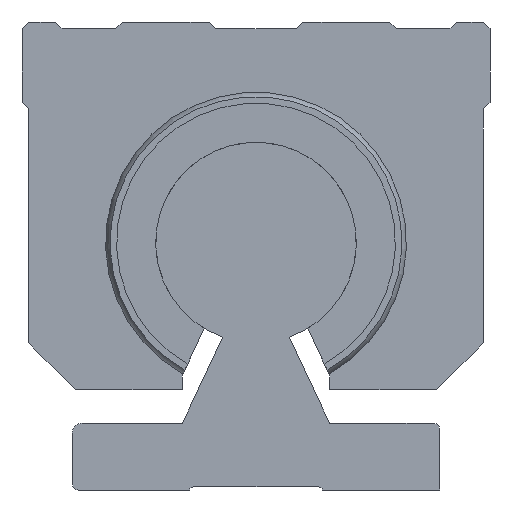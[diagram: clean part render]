
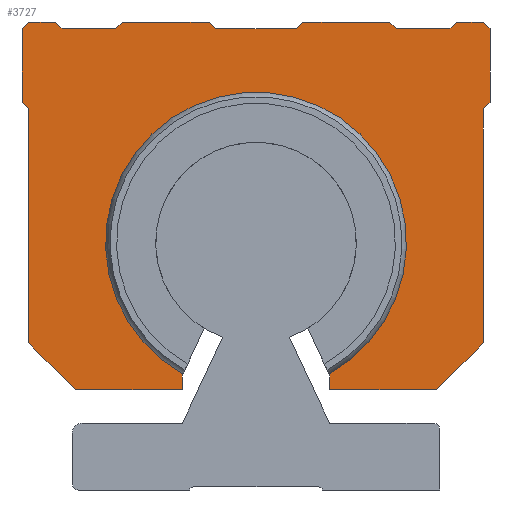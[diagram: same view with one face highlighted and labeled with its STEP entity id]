
A CAD part, left-side view. The second image highlights one B-rep face of the part: STEP entity #3727.
In plain terms, the highlighted planar face has unit normal (-1, 0, 0).
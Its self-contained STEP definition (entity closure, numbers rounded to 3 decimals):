
#3146=CARTESIAN_POINT('',(257.809,-11.,17.372));
#3147=VERTEX_POINT('',#3146);
#3154=CARTESIAN_POINT('',(257.809,11.,17.372));
#3155=VERTEX_POINT('',#3154);
#3156=CARTESIAN_POINT('',(257.809,0.,37.));
#3157=DIRECTION('',(-1.,0.0,0.0));
#3158=DIRECTION('',(0.0,-0.489,0.872));
#3159=AXIS2_PLACEMENT_3D('',#3156,#3157,#3158);
#3160=CIRCLE('',#3159,22.5);
#3161=EDGE_CURVE('',#3147,#3155,#3160,.T.);
#3253=CARTESIAN_POINT('',(257.809,-20.,70.0));
#3254=VERTEX_POINT('',#3253);
#3255=CARTESIAN_POINT('',(257.809,-21.,69.0));
#3256=VERTEX_POINT('',#3255);
#3257=CARTESIAN_POINT('',(257.809,-20.,70.0));
#3258=DIRECTION('',(0.0,-0.707,-0.707));
#3259=VECTOR('',#3258,1.414);
#3260=LINE('',#3257,#3259);
#3261=EDGE_CURVE('',#3254,#3256,#3260,.T.);
#3294=CARTESIAN_POINT('',(257.809,-29.,69.0));
#3295=VERTEX_POINT('',#3294);
#3296=CARTESIAN_POINT('',(257.809,-21.,69.0));
#3297=DIRECTION('',(0.0,-1.0,0.0));
#3298=VECTOR('',#3297,8.);
#3299=LINE('',#3296,#3298);
#3300=EDGE_CURVE('',#3256,#3295,#3299,.T.);
#3346=CARTESIAN_POINT('',(257.809,-6.,69.0));
#3347=VERTEX_POINT('',#3346);
#3348=CARTESIAN_POINT('',(257.809,-7.,70.0));
#3349=VERTEX_POINT('',#3348);
#3350=CARTESIAN_POINT('',(257.809,-6.,69.0));
#3351=DIRECTION('',(0.0,-0.707,0.707));
#3352=VECTOR('',#3351,1.414);
#3353=LINE('',#3350,#3352);
#3354=EDGE_CURVE('',#3347,#3349,#3353,.T.);
#3386=CARTESIAN_POINT('',(257.809,-30.,70.0));
#3387=VERTEX_POINT('',#3386);
#3388=CARTESIAN_POINT('',(257.809,-29.,69.0));
#3389=DIRECTION('',(0.0,-0.707,0.707));
#3390=VECTOR('',#3389,1.414);
#3391=LINE('',#3388,#3390);
#3392=EDGE_CURVE('',#3295,#3387,#3391,.T.);
#3417=CARTESIAN_POINT('',(257.809,30.,70.0));
#3418=VERTEX_POINT('',#3417);
#3419=CARTESIAN_POINT('',(257.809,29.,69.0));
#3420=VERTEX_POINT('',#3419);
#3421=CARTESIAN_POINT('',(257.809,30.,70.0));
#3422=DIRECTION('',(0.0,-0.707,-0.707));
#3423=VECTOR('',#3422,1.414);
#3424=LINE('',#3421,#3423);
#3425=EDGE_CURVE('',#3418,#3420,#3424,.T.);
#3458=CARTESIAN_POINT('',(257.809,21.,69.0));
#3459=VERTEX_POINT('',#3458);
#3460=CARTESIAN_POINT('',(257.809,29.,69.0));
#3461=DIRECTION('',(0.0,-1.0,0.0));
#3462=VECTOR('',#3461,8.);
#3463=LINE('',#3460,#3462);
#3464=EDGE_CURVE('',#3420,#3459,#3463,.T.);
#3520=CARTESIAN_POINT('',(257.809,35.,69.));
#3521=VERTEX_POINT('',#3520);
#3528=CARTESIAN_POINT('',(257.809,34.,70.0));
#3529=VERTEX_POINT('',#3528);
#3530=CARTESIAN_POINT('',(257.809,35.,69.));
#3531=DIRECTION('',(0.0,-0.707,0.707));
#3532=VECTOR('',#3531,1.414);
#3533=LINE('',#3530,#3532);
#3534=EDGE_CURVE('',#3521,#3529,#3533,.T.);
#3551=CARTESIAN_POINT('',(257.809,34.,70.0));
#3552=DIRECTION('',(0.0,-1.0,0.0));
#3553=VECTOR('',#3552,4.);
#3554=LINE('',#3551,#3553);
#3555=EDGE_CURVE('',#3529,#3418,#3554,.T.);
#3567=CARTESIAN_POINT('',(257.809,-13.5,69.5));
#3568=DIRECTION('',(1.0,0.0,0.0));
#3569=DIRECTION('',(0.0,0.0,-1.0));
#3570=AXIS2_PLACEMENT_3D('',#3567,#3568,#3569);
#3571=PLANE('',#3570);
#3572=ORIENTED_EDGE('',*,*,#3534,.F.);
#3573=CARTESIAN_POINT('',(257.809,35.,58.));
#3574=VERTEX_POINT('',#3573);
#3575=CARTESIAN_POINT('',(257.809,35.,58.));
#3576=DIRECTION('',(0.0,0.0,1.0));
#3577=VECTOR('',#3576,11.);
#3578=LINE('',#3575,#3577);
#3579=EDGE_CURVE('',#3574,#3521,#3578,.T.);
#3580=ORIENTED_EDGE('',*,*,#3579,.F.);
#3581=CARTESIAN_POINT('',(257.809,34.0,57.0));
#3582=VERTEX_POINT('',#3581);
#3583=CARTESIAN_POINT('',(257.809,34.0,57.0));
#3584=DIRECTION('',(0.0,0.707,0.707));
#3585=VECTOR('',#3584,1.414);
#3586=LINE('',#3583,#3585);
#3587=EDGE_CURVE('',#3582,#3574,#3586,.T.);
#3588=ORIENTED_EDGE('',*,*,#3587,.F.);
#3589=CARTESIAN_POINT('',(257.809,34.,22.0));
#3590=VERTEX_POINT('',#3589);
#3591=CARTESIAN_POINT('',(257.809,34.,22.0));
#3592=DIRECTION('',(0.0,0.0,1.0));
#3593=VECTOR('',#3592,35.0);
#3594=LINE('',#3591,#3593);
#3595=EDGE_CURVE('',#3590,#3582,#3594,.T.);
#3596=ORIENTED_EDGE('',*,*,#3595,.F.);
#3597=CARTESIAN_POINT('',(257.809,27.,15.));
#3598=VERTEX_POINT('',#3597);
#3599=CARTESIAN_POINT('',(257.809,27.,15.));
#3600=DIRECTION('',(0.0,0.707,0.707));
#3601=VECTOR('',#3600,9.899);
#3602=LINE('',#3599,#3601);
#3603=EDGE_CURVE('',#3598,#3590,#3602,.T.);
#3604=ORIENTED_EDGE('',*,*,#3603,.F.);
#3605=CARTESIAN_POINT('',(257.809,11.,15.));
#3606=VERTEX_POINT('',#3605);
#3607=CARTESIAN_POINT('',(257.809,11.,15.));
#3608=DIRECTION('',(0.0,1.0,0.0));
#3609=VECTOR('',#3608,16.);
#3610=LINE('',#3607,#3609);
#3611=EDGE_CURVE('',#3606,#3598,#3610,.T.);
#3612=ORIENTED_EDGE('',*,*,#3611,.F.);
#3613=CARTESIAN_POINT('',(257.809,11.,17.372));
#3614=DIRECTION('',(0.0,0.0,-1.0));
#3615=VECTOR('',#3614,2.372);
#3616=LINE('',#3613,#3615);
#3617=EDGE_CURVE('',#3155,#3606,#3616,.T.);
#3618=ORIENTED_EDGE('',*,*,#3617,.F.);
#3619=ORIENTED_EDGE('',*,*,#3161,.F.);
#3620=CARTESIAN_POINT('',(257.809,-11.,15.));
#3621=VERTEX_POINT('',#3620);
#3622=CARTESIAN_POINT('',(257.809,-11.,15.));
#3623=DIRECTION('',(0.0,0.0,1.0));
#3624=VECTOR('',#3623,2.372);
#3625=LINE('',#3622,#3624);
#3626=EDGE_CURVE('',#3621,#3147,#3625,.T.);
#3627=ORIENTED_EDGE('',*,*,#3626,.F.);
#3628=CARTESIAN_POINT('',(257.809,-27.0,15.));
#3629=VERTEX_POINT('',#3628);
#3630=CARTESIAN_POINT('',(257.809,-27.0,15.));
#3631=DIRECTION('',(0.0,1.0,0.0));
#3632=VECTOR('',#3631,16.);
#3633=LINE('',#3630,#3632);
#3634=EDGE_CURVE('',#3629,#3621,#3633,.T.);
#3635=ORIENTED_EDGE('',*,*,#3634,.F.);
#3636=CARTESIAN_POINT('',(257.809,-34.,22.0));
#3637=VERTEX_POINT('',#3636);
#3638=CARTESIAN_POINT('',(257.809,-34.,22.0));
#3639=DIRECTION('',(0.0,0.707,-0.707));
#3640=VECTOR('',#3639,9.899);
#3641=LINE('',#3638,#3640);
#3642=EDGE_CURVE('',#3637,#3629,#3641,.T.);
#3643=ORIENTED_EDGE('',*,*,#3642,.F.);
#3644=CARTESIAN_POINT('',(257.809,-34.,57.));
#3645=VERTEX_POINT('',#3644);
#3646=CARTESIAN_POINT('',(257.809,-34.,57.));
#3647=DIRECTION('',(0.0,0.0,-1.0));
#3648=VECTOR('',#3647,35.);
#3649=LINE('',#3646,#3648);
#3650=EDGE_CURVE('',#3645,#3637,#3649,.T.);
#3651=ORIENTED_EDGE('',*,*,#3650,.F.);
#3652=CARTESIAN_POINT('',(257.809,-35.,58.));
#3653=VERTEX_POINT('',#3652);
#3654=CARTESIAN_POINT('',(257.809,-35.,58.));
#3655=DIRECTION('',(0.0,0.707,-0.707));
#3656=VECTOR('',#3655,1.414);
#3657=LINE('',#3654,#3656);
#3658=EDGE_CURVE('',#3653,#3645,#3657,.T.);
#3659=ORIENTED_EDGE('',*,*,#3658,.F.);
#3660=CARTESIAN_POINT('',(257.809,-35.,69.0));
#3661=VERTEX_POINT('',#3660);
#3662=CARTESIAN_POINT('',(257.809,-35.,69.0));
#3663=DIRECTION('',(0.0,0.0,-1.0));
#3664=VECTOR('',#3663,11.);
#3665=LINE('',#3662,#3664);
#3666=EDGE_CURVE('',#3661,#3653,#3665,.T.);
#3667=ORIENTED_EDGE('',*,*,#3666,.F.);
#3668=CARTESIAN_POINT('',(257.809,-34.,70.0));
#3669=VERTEX_POINT('',#3668);
#3670=CARTESIAN_POINT('',(257.809,-34.,70.0));
#3671=DIRECTION('',(0.0,-0.707,-0.707));
#3672=VECTOR('',#3671,1.414);
#3673=LINE('',#3670,#3672);
#3674=EDGE_CURVE('',#3669,#3661,#3673,.T.);
#3675=ORIENTED_EDGE('',*,*,#3674,.F.);
#3676=CARTESIAN_POINT('',(257.809,-30.,70.0));
#3677=DIRECTION('',(0.0,-1.0,0.0));
#3678=VECTOR('',#3677,4.);
#3679=LINE('',#3676,#3678);
#3680=EDGE_CURVE('',#3387,#3669,#3679,.T.);
#3681=ORIENTED_EDGE('',*,*,#3680,.F.);
#3682=ORIENTED_EDGE('',*,*,#3392,.F.);
#3683=ORIENTED_EDGE('',*,*,#3300,.F.);
#3684=ORIENTED_EDGE('',*,*,#3261,.F.);
#3685=CARTESIAN_POINT('',(257.809,-7.,70.0));
#3686=DIRECTION('',(0.0,-1.0,0.0));
#3687=VECTOR('',#3686,13.);
#3688=LINE('',#3685,#3687);
#3689=EDGE_CURVE('',#3349,#3254,#3688,.T.);
#3690=ORIENTED_EDGE('',*,*,#3689,.F.);
#3691=ORIENTED_EDGE('',*,*,#3354,.F.);
#3692=CARTESIAN_POINT('',(257.809,6.,69.0));
#3693=VERTEX_POINT('',#3692);
#3694=CARTESIAN_POINT('',(257.809,6.,69.0));
#3695=DIRECTION('',(0.0,-1.0,0.0));
#3696=VECTOR('',#3695,12.);
#3697=LINE('',#3694,#3696);
#3698=EDGE_CURVE('',#3693,#3347,#3697,.T.);
#3699=ORIENTED_EDGE('',*,*,#3698,.F.);
#3700=CARTESIAN_POINT('',(257.809,7.,70.0));
#3701=VERTEX_POINT('',#3700);
#3702=CARTESIAN_POINT('',(257.809,7.,70.0));
#3703=DIRECTION('',(0.0,-0.707,-0.707));
#3704=VECTOR('',#3703,1.414);
#3705=LINE('',#3702,#3704);
#3706=EDGE_CURVE('',#3701,#3693,#3705,.T.);
#3707=ORIENTED_EDGE('',*,*,#3706,.F.);
#3708=CARTESIAN_POINT('',(257.809,20.,70.0));
#3709=VERTEX_POINT('',#3708);
#3710=CARTESIAN_POINT('',(257.809,20.,70.0));
#3711=DIRECTION('',(0.0,-1.0,0.0));
#3712=VECTOR('',#3711,13.);
#3713=LINE('',#3710,#3712);
#3714=EDGE_CURVE('',#3709,#3701,#3713,.T.);
#3715=ORIENTED_EDGE('',*,*,#3714,.F.);
#3716=CARTESIAN_POINT('',(257.809,21.,69.0));
#3717=DIRECTION('',(0.0,-0.707,0.707));
#3718=VECTOR('',#3717,1.414);
#3719=LINE('',#3716,#3718);
#3720=EDGE_CURVE('',#3459,#3709,#3719,.T.);
#3721=ORIENTED_EDGE('',*,*,#3720,.F.);
#3722=ORIENTED_EDGE('',*,*,#3464,.F.);
#3723=ORIENTED_EDGE('',*,*,#3425,.F.);
#3724=ORIENTED_EDGE('',*,*,#3555,.F.);
#3725=EDGE_LOOP('',(#3572,#3580,#3588,#3596,#3604,#3612,#3618,#3619,#3627,#3635,#3643,#3651,#3659,#3667,#3675,#3681,#3682,#3683,#3684,#3690,#3691,#3699,#3707,#3715,#3721,#3722,#3723,#3724));
#3726=FACE_OUTER_BOUND('',#3725,.T.);
#3727=ADVANCED_FACE('',(#3726),#3571,.F.);
